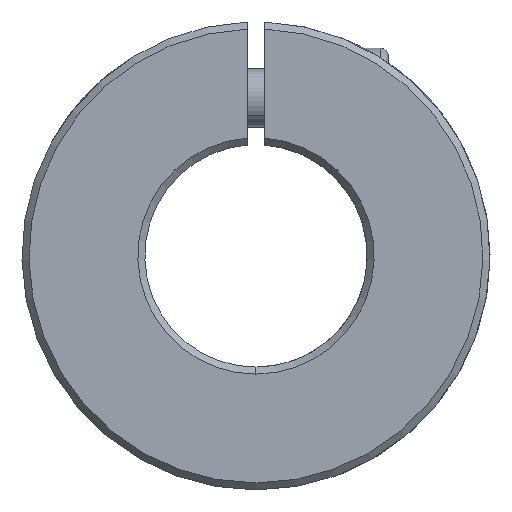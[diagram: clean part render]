
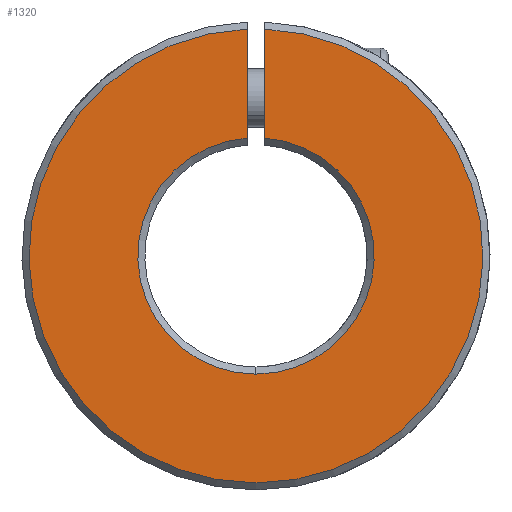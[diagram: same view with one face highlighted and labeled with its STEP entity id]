
A CAD part, front view. The second image highlights one B-rep face of the part: STEP entity #1320.
In plain terms, the highlighted planar face has unit normal (0, -1, 0).
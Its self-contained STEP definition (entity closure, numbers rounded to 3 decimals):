
#255 = CARTESIAN_POINT ( 'NONE',  ( 0.75, -25., -1. ) ) ;
#316 = AXIS2_PLACEMENT_3D ( 'NONE', #4055, #1742, #3500 ) ;
#474 = CARTESIAN_POINT ( 'NONE',  ( 0.75, -25., 10.072 ) ) ;
#484 = AXIS2_PLACEMENT_3D ( 'NONE', #2674, #1287, #5328 ) ;
#600 = ORIENTED_EDGE ( 'NONE', *, *, #4523, .T. ) ;
#606 = LINE ( 'NONE', #255, #2861 ) ;
#814 = VERTEX_POINT ( 'NONE', #5340 ) ;
#846 = DIRECTION ( 'NONE',  ( 0., -1., 0. ) ) ;
#902 = DIRECTION ( 'NONE',  ( 0., 0., 1. ) ) ;
#1287 = DIRECTION ( 'NONE',  ( 0., 1., 0. ) ) ;
#1320 = ADVANCED_FACE ( 'NONE', ( #4879 ), #2310, .F. ) ;
#1558 = VERTEX_POINT ( 'NONE', #2140 ) ;
#1709 = CIRCLE ( 'NONE', #5677, 19.4 ) ;
#1742 = DIRECTION ( 'NONE',  ( 0., 1., 0. ) ) ;
#1879 = VECTOR ( 'NONE', #5188, 1000. ) ;
#2140 = CARTESIAN_POINT ( 'NONE',  ( -0.75, -25., 10.072 ) ) ;
#2167 = AXIS2_PLACEMENT_3D ( 'NONE', #4802, #3632, #2177 ) ;
#2177 = DIRECTION ( 'NONE',  ( 0., 0., 1. ) ) ;
#2217 = EDGE_CURVE ( 'NONE', #3486, #5058, #606, .T. ) ;
#2310 = PLANE ( 'NONE',  #316 ) ;
#2421 = CARTESIAN_POINT ( 'NONE',  ( -0.75, -25., -1. ) ) ;
#2640 = ORIENTED_EDGE ( 'NONE', *, *, #3853, .T. ) ;
#2674 = CARTESIAN_POINT ( 'NONE',  ( 0., -25., 0. ) ) ;
#2750 = ORIENTED_EDGE ( 'NONE', *, *, #4877, .T. ) ;
#2861 = VECTOR ( 'NONE', #3783, 1000. ) ;
#2941 = CARTESIAN_POINT ( 'NONE',  ( 0.75, -25., 19.385 ) ) ;
#3140 = CARTESIAN_POINT ( 'NONE',  ( 0., -25., 0. ) ) ;
#3486 = VERTEX_POINT ( 'NONE', #2941 ) ;
#3500 = DIRECTION ( 'NONE',  ( 0., 0., 1. ) ) ;
#3559 = EDGE_CURVE ( 'NONE', #4721, #3486, #1709, .T. ) ;
#3632 = DIRECTION ( 'NONE',  ( 0., 1., 0. ) ) ;
#3783 = DIRECTION ( 'NONE',  ( 0., 0., -1. ) ) ;
#3853 = EDGE_CURVE ( 'NONE', #814, #1558, #3902, .T. ) ;
#3902 = CIRCLE ( 'NONE', #2167, 10.1 ) ;
#3961 = EDGE_LOOP ( 'NONE', ( #5506, #600, #2640, #2750, #4541 ) ) ;
#4055 = CARTESIAN_POINT ( 'NONE',  ( 0., -25., 0. ) ) ;
#4170 = LINE ( 'NONE', #2421, #1879 ) ;
#4468 = CARTESIAN_POINT ( 'NONE',  ( -0.75, -25., 19.385 ) ) ;
#4523 = EDGE_CURVE ( 'NONE', #5058, #814, #5683, .T. ) ;
#4541 = ORIENTED_EDGE ( 'NONE', *, *, #3559, .T. ) ;
#4721 = VERTEX_POINT ( 'NONE', #4468 ) ;
#4802 = CARTESIAN_POINT ( 'NONE',  ( 0., -25., 0. ) ) ;
#4877 = EDGE_CURVE ( 'NONE', #1558, #4721, #4170, .T. ) ;
#4879 = FACE_OUTER_BOUND ( 'NONE', #3961, .T. ) ;
#5058 = VERTEX_POINT ( 'NONE', #474 ) ;
#5188 = DIRECTION ( 'NONE',  ( 0., 0., 1. ) ) ;
#5328 = DIRECTION ( 'NONE',  ( 0., 0., 1. ) ) ;
#5340 = CARTESIAN_POINT ( 'NONE',  ( 0., -25., -10.1 ) ) ;
#5506 = ORIENTED_EDGE ( 'NONE', *, *, #2217, .T. ) ;
#5677 = AXIS2_PLACEMENT_3D ( 'NONE', #3140, #846, #902 ) ;
#5683 = CIRCLE ( 'NONE', #484, 10.1 ) ;
